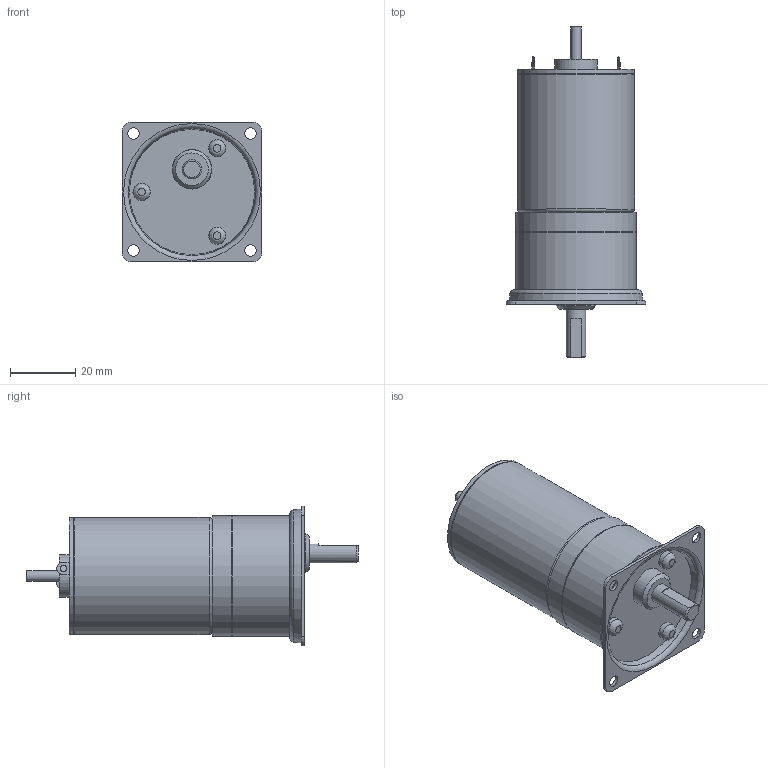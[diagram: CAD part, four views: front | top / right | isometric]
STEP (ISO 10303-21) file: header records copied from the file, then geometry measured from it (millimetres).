
FILE_DESCRIPTION((''),'2;1');
FILE_NAME('C:\Documents and Settings\SSEGAWA\デスクトップ\TP-3644L-PHM-2.STP','2013-07-26T18:51:15',('SSEGAWA'),(''),'Autodesk Inventor 2010','Autodesk Inventor 2010','');
FILE_SCHEMA(('CONFIG_CONTROL_DESIGN'));
Length unit declared in the file: millimetre
Products named in the file (1): tp_3644l_phm_2_Shrinkwrap_1
Bounding box: 43 x 102.1 x 43 mm (x, y, z)
Volume: 73785.2 mm3; surface area: 14263 mm2
Topology: 1 solids, 9 shells, 100 faces, 208 edges, 139 vertices
Faces by surface type: plane 43, cylinder 26, bspline 23, torus 4, cone 4
Full cylindrical faces by diameter (mm): 3 x1, 3.175 x1, 3.5 x1, 5.3 x3, 6 x1, 12 x1, 12.2 x1, 13 x1, 35.6 x1, 36 x2, 36.6 x1, 37 x2
Entity records: 2756 total; most frequent: CARTESIAN_POINT 828, DIRECTION 383, ORIENTED_EDGE 274, EDGE_LOOP 171, AXIS2_PLACEMENT_3D 170, EDGE_CURVE 137, VERTEX_POINT 114, STYLED_ITEM 101
